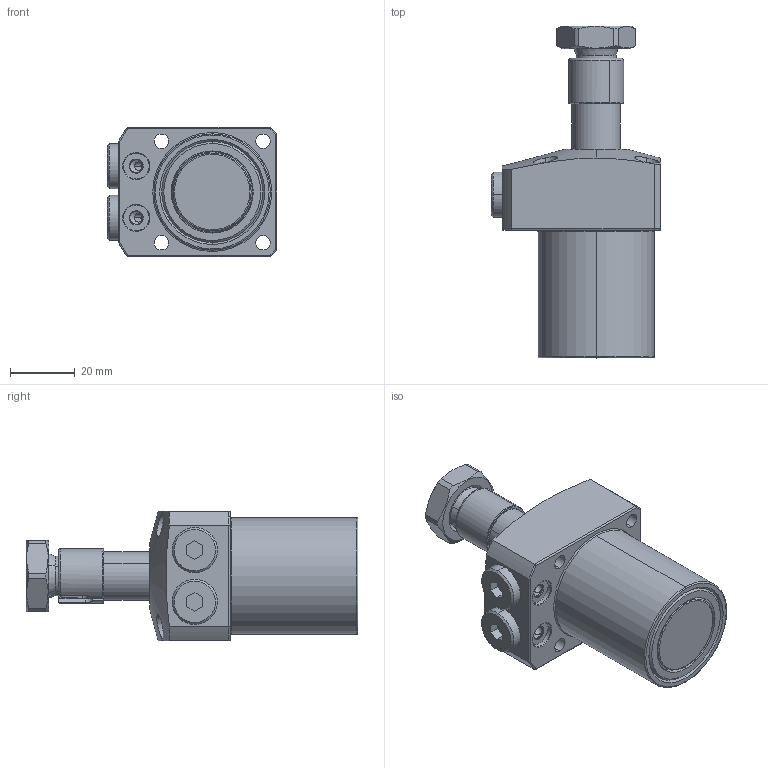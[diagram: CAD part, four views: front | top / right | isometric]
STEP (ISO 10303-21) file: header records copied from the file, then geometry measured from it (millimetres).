
FILE_DESCRIPTION(/* description */ (''),/* implementation_level */ '2;1');
FILE_NAME(/* name */ 'KTRC36-LN60.stp',/* time_stamp */ '2022-11-18T08:48:19+08:00',/* author */ (''),/* organization */ (''),/* preprocessor_version */ 'ST-DEVELOPER v16.7',/* originating_system */ 'SIEMENS PLM Software NX 12.0',/* authorisation */ '');
FILE_SCHEMA (('AP203_CONFIGURATION_CONTROLLED_3D_DESIGN_OF_MECHANICAL_PARTS_AND_ASSEMBLIES_MIM_LF { 1 0 10303 403 2 1 2}'));
Length unit declared in the file: millimetre
Products named in the file (7): KTRC36-LN60-05; KTRC36-LN60-04; KTRC36-LN60-03; KTRC36-LN60-02; KTRC36-LN60-01; KTRC36-LN60-06; LHA0360-CL-Y60_R01_step
Assembly tree (7 placements, depth 2):
  LHA0360-CL-Y60_R01_step
    KTRC36-LN60-06  x2
    KTRC36-LN60-01
    KTRC36-LN60-02
    KTRC36-LN60-03
    KTRC36-LN60-04
    KTRC36-LN60-05
Bounding box: 52.5 x 102.7 x 40 mm (x, y, z)
Volume: 90751.6 mm3; surface area: 21875.7 mm2
Topology: 7 solids, 7 shells, 238 faces, 567 edges, 355 vertices
Faces by surface type: cylinder 85, plane 77, cone 51, torus 23, sphere 2
Entity records: 8181 total; most frequent: CARTESIAN_POINT 2109, DIRECTION 1140, ORIENTED_EDGE 1074, EDGE_CURVE 537, AXIS2_PLACEMENT_3D 468, VERTEX_POINT 337, EDGE_LOOP 252, CIRCLE 235
